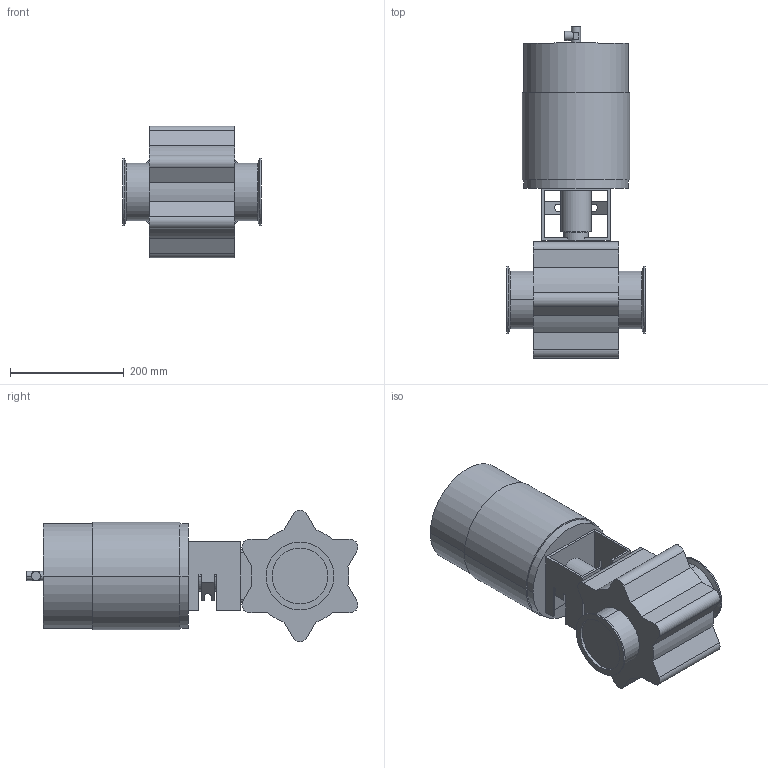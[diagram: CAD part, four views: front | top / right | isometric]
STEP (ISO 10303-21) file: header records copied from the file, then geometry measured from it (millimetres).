
FILE_DESCRIPTION(('Creo Elements/Direct Modeling STEP Export'),'2;1');
FILE_NAME('BLV1-4T-NC-12CL.stp','2019-05-10T 8:31:15',(''),(''),'Creo Elements/Direct Modeling STEP processor for AP214 (Solid Model)','Creo Elements/Direct Modeling 19.0F 14-Feb-2017 (C) Parametric Technology GmbH','');
FILE_SCHEMA(('AUTOMOTIVE_DESIGN { 1 0 10303 214 1 1 1 1 }'));
Length unit declared in the file: millimetre
Products named in the file (2): BLV1-4T-NC-12CL
Assembly tree (1 placements, depth 2):
  BLV1-4T-NC-12CL
    BLV1-4T-NC-12CL
Bounding box: 243 x 583.2 x 231 mm (x, y, z)
Volume: 12607722.2 mm3; surface area: 490627 mm2
Topology: 1 solids, 1 shells, 143 faces, 387 edges, 254 vertices
Faces by surface type: plane 90, cylinder 49, cone 4
Entity records: 4212 total; most frequent: ORIENTED_EDGE 774, CARTESIAN_POINT 753, DIRECTION 650, EDGE_CURVE 387, VERTEX_POINT 254, VECTOR 244, LINE 244, AXIS2_PLACEMENT_3D 203
